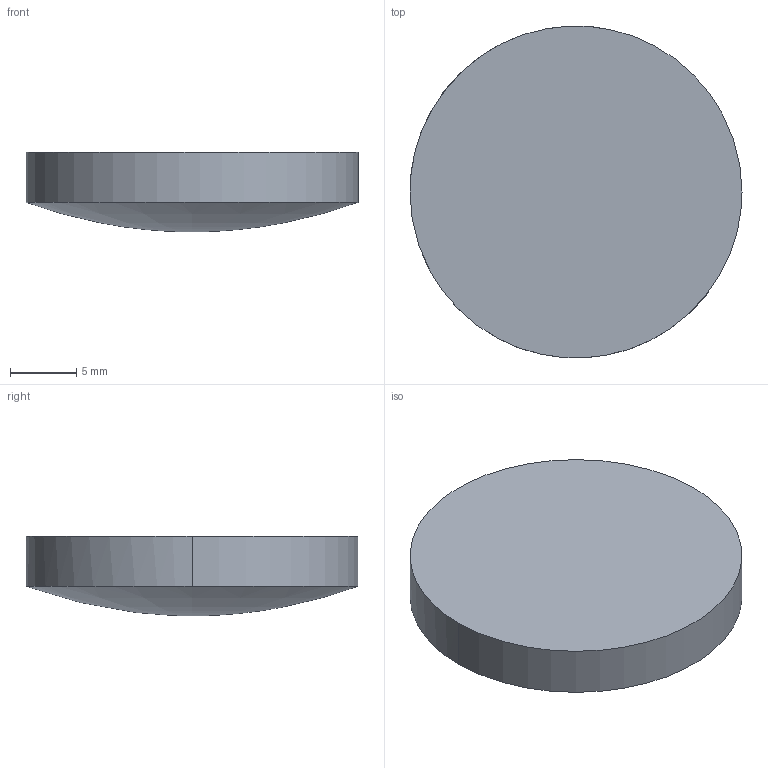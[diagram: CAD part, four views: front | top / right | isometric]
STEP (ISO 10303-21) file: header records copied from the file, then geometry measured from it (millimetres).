
FILE_DESCRIPTION ((), '1');
FILE_NAME ('D:\Applikationen\Optikdesign\StockOptics\Neuentwicklung StockOptics-Designs\AFL Aspheres\AFL25-75 (010713)\ZAS-010713-500-01A Linse AFL25-75_200902_LKI.STP', '2020-09-02T09:41:24', ('Unknown'), ('Unknown'), 'HarmonyWare STEP v2.0.6', 'HarmonyWare Translators', '');
FILE_SCHEMA (('CONFIG_CONTROL_DESIGN'));
Length unit declared in the file: millimetre
Products named in the file (2): NONE
Bounding box: 25 x 24.98 x 6 mm (x, y, z)
Volume: 2405.5 mm3; surface area: 1295 mm2
Topology: 1 solids, 1 shells, 4 faces, 18 edges, 24 vertices
Faces by surface type: cylinder 2, bspline 1, plane 1
Entity records: 420 total; most frequent: CARTESIAN_POINT 141, ORIENTED_EDGE 16, PERSON 16, ORGANIZATION 16, PERSON_AND_ORGANIZATION 16, DIRECTION 15, PERSON_AND_ORGANIZATION_ROLE 10, CC_DESIGN_PERSON_AND_ORGANIZATION_ASSIGNMENT 10
